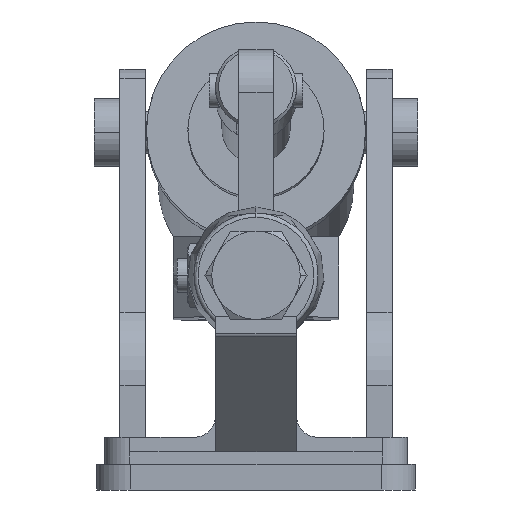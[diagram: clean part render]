
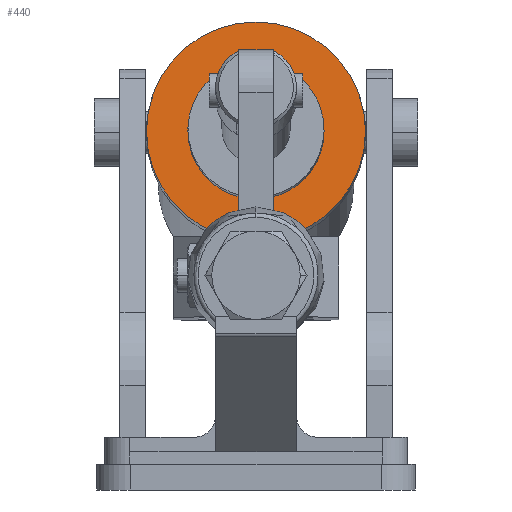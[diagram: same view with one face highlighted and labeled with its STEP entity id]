
A CAD part, left-side view. The second image highlights one B-rep face of the part: STEP entity #440.
In plain terms, the highlighted planar face has unit normal (-0.997, 0, 0.073).
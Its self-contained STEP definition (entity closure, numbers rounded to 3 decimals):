
#159=CARTESIAN_POINT('Vertex',(360.006,25.75,78.364)) ;
#237=CARTESIAN_POINT('Vertex',(360.006,-25.75,78.364)) ;
#240=CARTESIAN_POINT('Axis2P3D Location',(360.006,0.,78.364)) ;
#271=CARTESIAN_POINT('Axis2P3D Location',(360.006,0.,78.364)) ;
#397=CARTESIAN_POINT('Axis2P3D Location',(352.409,0.,-25.721)) ;
#406=CARTESIAN_POINT('Axis2P3D Location',(360.006,0.,78.364)) ;
#410=CARTESIAN_POINT('Vertex',(360.006,16.,78.364)) ;
#412=CARTESIAN_POINT('Vertex',(358.984,-7.671,64.36)) ;
#415=CARTESIAN_POINT('Axis2P3D Location',(360.006,0.,78.364)) ;
#419=CARTESIAN_POINT('Vertex',(361.028,7.671,92.368)) ;
#422=CARTESIAN_POINT('Axis2P3D Location',(360.006,0.,78.364)) ;
#426=CARTESIAN_POINT('Vertex',(360.006,-16.,78.364)) ;
#429=CARTESIAN_POINT('Axis2P3D Location',(360.006,0.,78.364)) ;
#241=DIRECTION('Axis2P3D Direction',(-0.997,0.,0.073)) ;
#272=DIRECTION('Axis2P3D Direction',(-0.997,0.,0.073)) ;
#398=DIRECTION('Axis2P3D Direction',(-0.997,0.,0.073)) ;
#399=DIRECTION('Axis2P3D XDirection',(0.,-1.,0.)) ;
#407=DIRECTION('Axis2P3D Direction',(-0.997,0.,0.073)) ;
#416=DIRECTION('Axis2P3D Direction',(-0.997,0.,0.073)) ;
#423=DIRECTION('Axis2P3D Direction',(-0.997,0.,0.073)) ;
#430=DIRECTION('Axis2P3D Direction',(-0.997,0.,0.073)) ;
#242=AXIS2_PLACEMENT_3D('Circle Axis2P3D',#240,#241,$) ;
#273=AXIS2_PLACEMENT_3D('Circle Axis2P3D',#271,#272,$) ;
#400=AXIS2_PLACEMENT_3D('Plane Axis2P3D',#397,#398,#399) ;
#408=AXIS2_PLACEMENT_3D('Circle Axis2P3D',#406,#407,$) ;
#417=AXIS2_PLACEMENT_3D('Circle Axis2P3D',#415,#416,$) ;
#424=AXIS2_PLACEMENT_3D('Circle Axis2P3D',#422,#423,$) ;
#431=AXIS2_PLACEMENT_3D('Circle Axis2P3D',#429,#430,$) ;
#403=ORIENTED_EDGE('',*,*,#244,.T.) ;
#404=ORIENTED_EDGE('',*,*,#275,.T.) ;
#435=ORIENTED_EDGE('',*,*,#414,.F.) ;
#436=ORIENTED_EDGE('',*,*,#421,.F.) ;
#437=ORIENTED_EDGE('',*,*,#428,.F.) ;
#438=ORIENTED_EDGE('',*,*,#433,.F.) ;
#439=FACE_BOUND('',#434,.T.) ;
#440=ADVANCED_FACE('',(#405,#439),#401,.T.) ;
#243=CIRCLE('generated circle',#242,25.75) ;
#274=CIRCLE('generated circle',#273,25.75) ;
#409=CIRCLE('generated circle',#408,16.) ;
#418=CIRCLE('generated circle',#417,16.) ;
#425=CIRCLE('generated circle',#424,16.) ;
#432=CIRCLE('generated circle',#431,16.) ;
#244=EDGE_CURVE('',#160,#238,#243,.T.) ;
#275=EDGE_CURVE('',#238,#160,#274,.T.) ;
#414=EDGE_CURVE('',#411,#413,#409,.T.) ;
#421=EDGE_CURVE('',#420,#411,#418,.T.) ;
#428=EDGE_CURVE('',#427,#420,#425,.T.) ;
#433=EDGE_CURVE('',#413,#427,#432,.T.) ;
#402=EDGE_LOOP('',(#403,#404)) ;
#434=EDGE_LOOP('',(#435,#436,#437,#438)) ;
#405=FACE_OUTER_BOUND('',#402,.T.) ;
#401=PLANE('Plane',#400) ;
#160=VERTEX_POINT('',#159) ;
#238=VERTEX_POINT('',#237) ;
#411=VERTEX_POINT('',#410) ;
#413=VERTEX_POINT('',#412) ;
#420=VERTEX_POINT('',#419) ;
#427=VERTEX_POINT('',#426) ;
